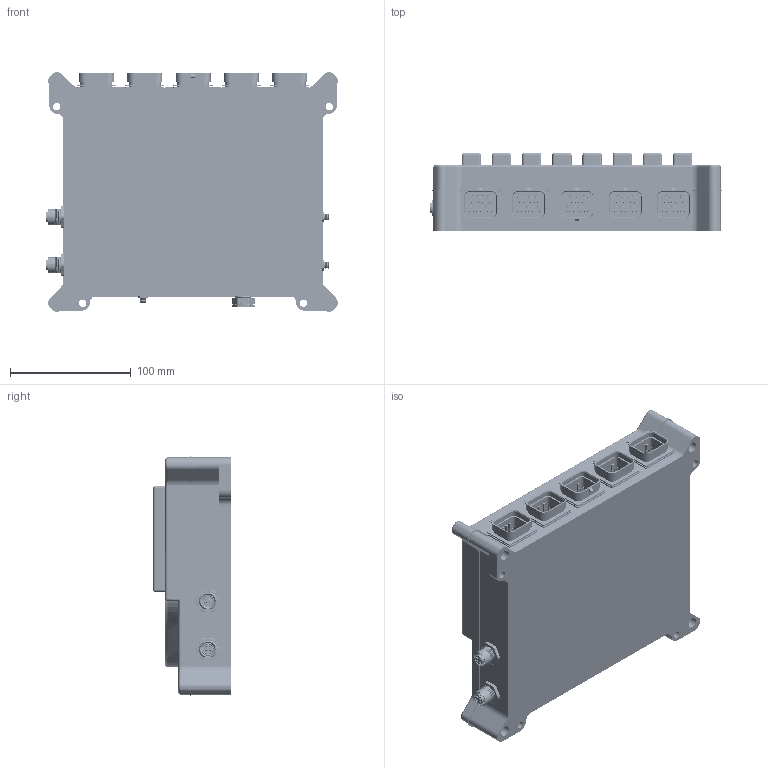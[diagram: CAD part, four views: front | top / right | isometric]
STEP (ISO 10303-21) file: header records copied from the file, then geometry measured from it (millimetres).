
FILE_DESCRIPTION (( 'STEP AP214' ), '1' );
FILE_NAME ('GOcontroll_Moduline_IV.STEP', '2025-02-06T10:46:05', ( '' ), ( '' ), 'SwSTEP 2.0', 'SolidWorks 2021', '' );
FILE_SCHEMA (( 'AUTOMOTIVE_DESIGN' ));
Length unit declared in the file: millimetre
Products named in the file (16): Onderzijde_solid; T4131412041-000; 6473423-1; ModulineSMA_Valor predeterminado; 6473423-2; GOcontroll_Moduline_IV; 9-6437287-9; T4131512041-000; JDAE12PA(2)2; JDAE12PA(2)1; 2-6437285-8; Bovenzijde_solid; lighttube; 9-6437287-8; JDAE12PA_SW; Pakking
Assembly tree (20 placements, depth 3):
  GOcontroll_Moduline_IV
    Onderzijde_solid
    Bovenzijde_solid
    Pakking
    ModulineSMA_Valor predeterminado  x3
    lighttube  x4
    2-6437285-8
    6473423-1
    6473423-2
    9-6437287-8
    9-6437287-9
    JDAE12PA_SW
      JDAE12PA(2)1
      JDAE12PA(2)2
    T4131512041-000
    T4131412041-000
Bounding box: 241.7 x 64.52 x 198.53 mm (x, y, z)
Volume: 2023351.2 mm3; surface area: 303222.3 mm2
Topology: 19 solids, 26 shells, 4469 faces, 10483 edges, 6444 vertices
Faces by surface type: cylinder 1819, plane 1288, cone 932, torus 305, bspline 87, sphere 38
Entity records: 160811 total; most frequent: CARTESIAN_POINT 37714, DIRECTION 21873, ORIENTED_EDGE 19474, EDGE_CURVE 9737, AXIS2_PLACEMENT_3D 8561, VERTEX_POINT 6025, EDGE_LOOP 4890, VECTOR 4751
